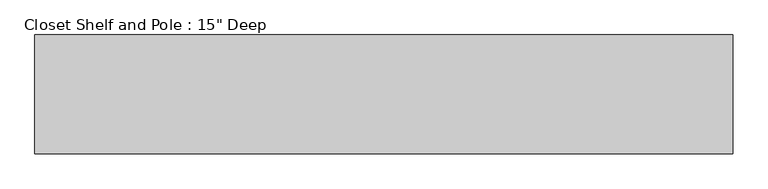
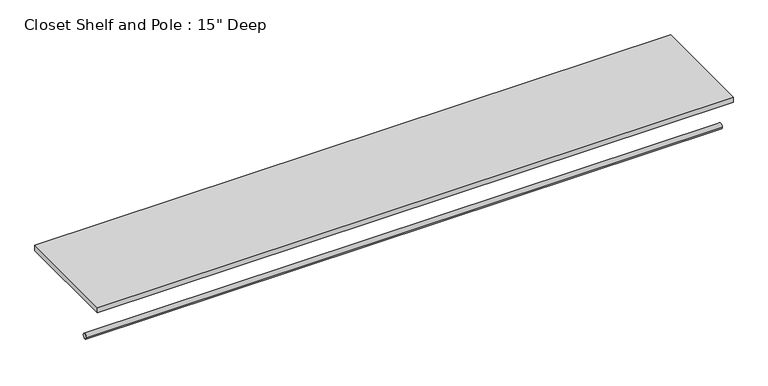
"""IFC4 building model written with IfcOpenShell, lengths in millimetres: proxy geometry."""

from ifc_helpers import new_model, si_unit, point, frame, frame_2d, origin, place, context, project, spatial, polyline, circle_curve, trimmed, segment, composite_curve, outline, extrude, source, transform, mapped, element, save


def proxy_7d457253(model_context):
    return source(origin(), model_context, "Body", "SweptSolid", [
        extrude(outline(polyline([(2235.2, 0.0), (2235.2, -381.0), (0.0, -381.0), (0.0, 0.0), (2235.2, 0.0)])), frame((0.0, 0.0, 1809.75), z_axis=(0.0, 0.0, 1.0), x_axis=(1.0, 0.0, 0.0)), (0.0, 0.0, 1.0), 19.05),
        extrude(outline(composite_curve([segment(trimmed(circle_curve(frame_2d((-304.8, 1676.4)), 9.525), [point((-314.325, 1676.4))], [point((-295.275, 1676.4))], False, "CARTESIAN"), True, "CONTINUOUS"), segment(trimmed(circle_curve(frame_2d((-304.8, 1676.4)), 9.525), [point((-295.275, 1676.4))], [point((-314.325, 1676.4))], False, "CARTESIAN"), True, "CONTINUOUS")], self_intersect=False)), frame((0.0, 0.0, 0.0), z_axis=(1.0, 0.0, 0.0), x_axis=(0.0, 1.0, 0.0)), (0.0, 0.0, 1.0), 2235.2),
    ])


if __name__ == "__main__":
    model = new_model("IFC4")
    model_context = context("Model", 3, world=origin())
    ifc_project = project(units=[si_unit("LENGTHUNIT", "METRE", prefix="MILLI")], contexts=[model_context])
    site = spatial("IfcSite", under=ifc_project)
    building = spatial("IfcBuilding", under=site)
    placement = place(None, origin())
    proxy_shape = proxy_7d457253(model_context)
    element("IfcBuildingElementProxy", 1, Name="Closet Shelf and Pole : 15\" Deep", ObjectType="Closet Shelf and Pole : 15\" Deep", at=placement, inside=building, context=model_context, shape_type="MappedRepresentation", body=[
        mapped(proxy_shape, transform((0.0, 0.0, 0.0), x_axis=(1.0, 0.0, 0.0), y_axis=(0.0, 1.0, 0.0), z_axis=(0.0, 0.0, 1.0))),
    ])
    save(model, "model.ifc")
